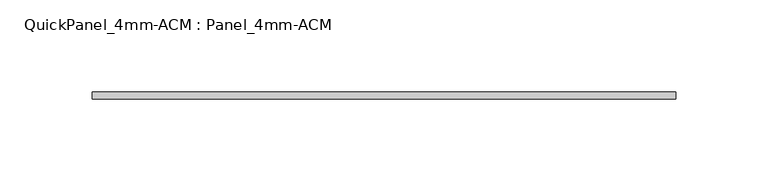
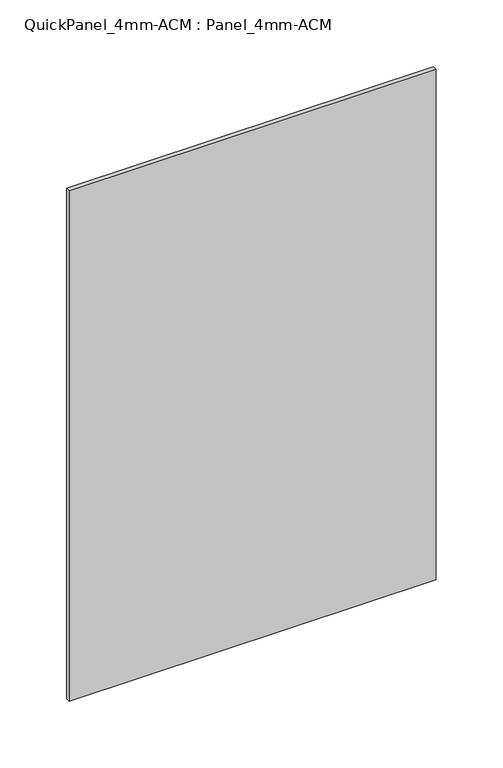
"""IFC4 building model written with IfcOpenShell, lengths in millimetres: plate geometry, QuickPanel_4mm-ACM : Panel_4mm-ACM."""

from ifc_helpers import new_model, si_unit, origin, origin_with_axes, place, context, project, spatial, polyline, outline, extrude, source, transform, mapped, element, save


def quickpanel_4mm_acm_panel_4mm_acm_775fb91e(model_context):
    return source(origin(), model_context, "Body", "SweptSolid", [
        extrude(outline(polyline([(-158.4062543, -6.096), (158.4062543, -6.096), (158.4062543, -9.906), (-158.4062543, -9.906), (-158.4062543, -6.096)])), origin_with_axes(), (0.0, 0.0, 1.0), 465.6618949),
    ])


if __name__ == "__main__":
    model = new_model("IFC4")
    model_context = context("Model", 3, world=origin())
    ifc_project = project(units=[si_unit("LENGTHUNIT", "METRE", prefix="MILLI")], contexts=[model_context])
    site = spatial("IfcSite", under=ifc_project)
    building = spatial("IfcBuilding", under=site)
    placement = place(None, origin())
    quickpanel_4mm_acm_panel_4mm_acm_shape = quickpanel_4mm_acm_panel_4mm_acm_775fb91e(model_context)
    element("IfcPlate", 1, ObjectType="QuickPanel_4mm-ACM : Panel_4mm-ACM", at=placement, inside=building, context=model_context, shape_type="MappedRepresentation", body=[
        mapped(quickpanel_4mm_acm_panel_4mm_acm_shape, transform((0.0, 0.0, 0.0), x_axis=(1.0, 0.0, 0.0), y_axis=(0.0, 1.0, 0.0), z_axis=(0.0, 0.0, 1.0))),
    ])
    save(model, "model.ifc")
